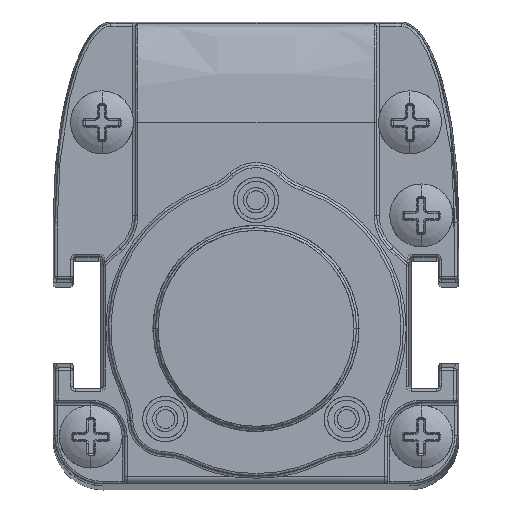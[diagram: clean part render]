
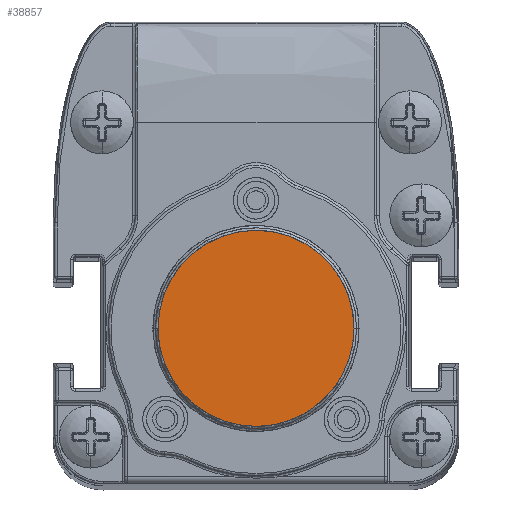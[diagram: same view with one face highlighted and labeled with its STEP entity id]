
A CAD part, top view. The second image highlights one B-rep face of the part: STEP entity #38857.
In plain terms, the highlighted planar face has unit normal (0, 0, 1).
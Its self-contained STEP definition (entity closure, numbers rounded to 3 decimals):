
#38790=CARTESIAN_POINT('',(-7.797,0.219,233.34));
#38791=CARTESIAN_POINT('',(-7.784,0.632,233.34));
#38792=CARTESIAN_POINT('',(-7.697,1.439,233.34));
#38793=CARTESIAN_POINT('',(-7.384,2.611,233.34));
#38794=CARTESIAN_POINT('',(-6.898,3.702,233.34));
#38795=CARTESIAN_POINT('',(-6.249,4.72,233.34));
#38796=CARTESIAN_POINT('',(-5.462,5.609,233.34));
#38797=CARTESIAN_POINT('',(-4.543,6.379,233.34));
#38798=CARTESIAN_POINT('',(-3.501,7.006,233.34));
#38799=CARTESIAN_POINT('',(-2.329,7.48,233.34));
#38800=CARTESIAN_POINT('',(-1.11,7.754,233.34));
#38801=CARTESIAN_POINT('',(0.144,7.832,233.34));
#38802=CARTESIAN_POINT('',(1.404,7.707,233.34));
#38803=CARTESIAN_POINT('',(2.608,7.386,233.34));
#38804=CARTESIAN_POINT('',(3.75,6.877,233.34));
#38805=CARTESIAN_POINT('',(4.769,6.211,233.34));
#38806=CARTESIAN_POINT('',(5.682,5.388,233.34));
#38807=CARTESIAN_POINT('',(6.418,4.485,233.34));
#38808=CARTESIAN_POINT('',(7.041,3.429,233.34));
#38809=CARTESIAN_POINT('',(7.463,2.356,233.34));
#38810=CARTESIAN_POINT('',(7.739,1.212,233.34));
#38811=CARTESIAN_POINT('',(7.799,0.411,233.34));
#38812=CARTESIAN_POINT('',(7.8,0.,233.34));
#38817=CARTESIAN_POINT('',(7.8,0.,233.34));
#38818=CARTESIAN_POINT('',(7.802,-0.418,233.34));
#38819=CARTESIAN_POINT('',(7.737,-1.247,233.34));
#38820=CARTESIAN_POINT('',(7.417,-2.518,233.34));
#38821=CARTESIAN_POINT('',(6.922,-3.671,233.34));
#38822=CARTESIAN_POINT('',(6.22,-4.763,233.34));
#38823=CARTESIAN_POINT('',(5.389,-5.683,233.34));
#38824=CARTESIAN_POINT('',(4.415,-6.469,233.34));
#38825=CARTESIAN_POINT('',(3.356,-7.077,233.34));
#38826=CARTESIAN_POINT('',(2.198,-7.516,233.34));
#38827=CARTESIAN_POINT('',(1.038,-7.762,233.34));
#38828=CARTESIAN_POINT('',(-0.175,-7.828,233.34));
#38829=CARTESIAN_POINT('',(-1.359,-7.712,233.34));
#38830=CARTESIAN_POINT('',(-2.518,-7.414,233.34));
#38831=CARTESIAN_POINT('',(-3.617,-6.947,233.34));
#38832=CARTESIAN_POINT('',(-4.672,-6.287,233.34));
#38833=CARTESIAN_POINT('',(-5.617,-5.46,233.34));
#38834=CARTESIAN_POINT('',(-6.414,-4.497,233.34));
#38835=CARTESIAN_POINT('',(-7.054,-3.406,233.34));
#38836=CARTESIAN_POINT('',(-7.508,-2.235,233.34));
#38837=CARTESIAN_POINT('',(-7.766,-1.009,233.34));
#38838=CARTESIAN_POINT('',(-7.808,-0.192,233.34));
#38839=CARTESIAN_POINT('',(-7.797,0.219,233.34));
#38844=VERTEX_POINT('',#38812);
#38845=VERTEX_POINT('',#38790);
#38846=CARTESIAN_POINT('',(-0.002,-0.002,233.34));
#38847=DIRECTION('',(0.,0.,1.));
#38848=DIRECTION('',(1.,0.,0.));
#38849=AXIS2_PLACEMENT_3D('',#38846,#38847,#38848);
#38850=PLANE('',#38849);
#38852=ORIENTED_EDGE('',*,*,#38851,.T.);
#38854=ORIENTED_EDGE('',*,*,#38853,.T.);
#38855=EDGE_LOOP('',(#38852,#38854));
#38856=FACE_OUTER_BOUND('',#38855,.F.);
#38857=ADVANCED_FACE('',(#38856),#38850,.T.);
#38813=B_SPLINE_CURVE_WITH_KNOTS('',3,(#38790,#38791,#38792,#38793,#38794,
#38795,#38796,#38797,#38798,#38799,#38800,#38801,#38802,#38803,#38804,#38805,
#38806,#38807,#38808,#38809,#38810,#38811,#38812),.UNSPECIFIED.,.F.,.F.,(4,1,1,
1,1,1,1,1,1,1,1,1,1,1,1,1,1,1,1,1,4),(0.,0.05,0.1,0.15,0.2,0.25,
0.3,0.35,0.4,0.45,0.5,0.55,0.6,0.65,0.7,0.75,0.8,0.85,
0.9,0.95,1.),.UNSPECIFIED.);
#38840=B_SPLINE_CURVE_WITH_KNOTS('',3,(#38817,#38818,#38819,#38820,#38821,
#38822,#38823,#38824,#38825,#38826,#38827,#38828,#38829,#38830,#38831,#38832,
#38833,#38834,#38835,#38836,#38837,#38838,#38839),.UNSPECIFIED.,.F.,.F.,(4,1,1,
1,1,1,1,1,1,1,1,1,1,1,1,1,1,1,1,1,4),(0.,0.05,0.1,0.15,0.2,0.25,
0.3,0.35,0.4,0.45,0.5,0.55,0.6,0.65,0.7,0.75,0.8,0.85,
0.9,0.95,1.),.UNSPECIFIED.);
#38851=EDGE_CURVE('',#38845,#38844,#38813,.T.);
#38853=EDGE_CURVE('',#38844,#38845,#38840,.T.);
